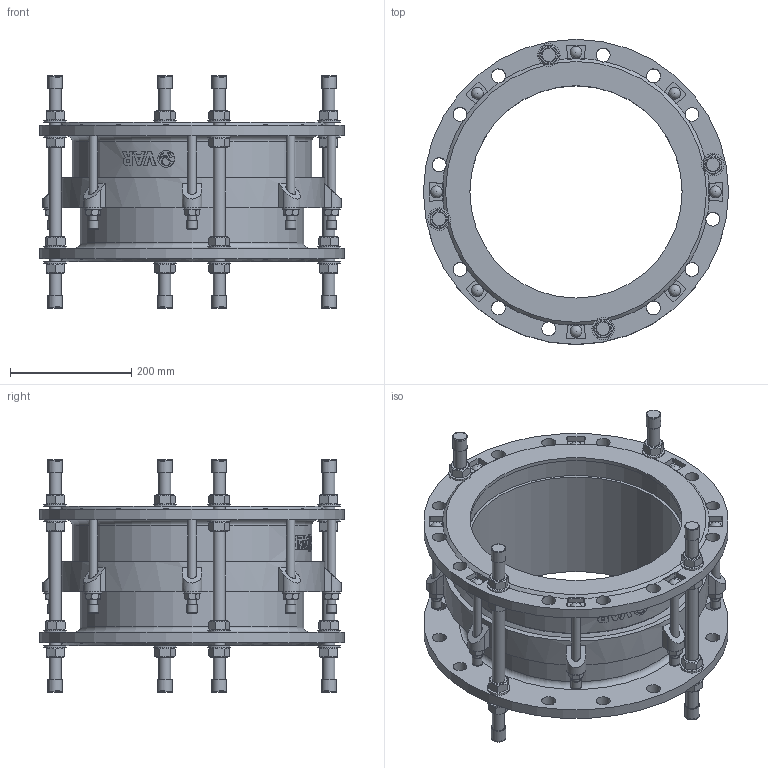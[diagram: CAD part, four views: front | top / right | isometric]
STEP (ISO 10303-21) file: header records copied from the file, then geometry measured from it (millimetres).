
FILE_DESCRIPTION(('STEP AP242'), '1');
FILE_NAME('Ìîíòàæíàÿ âñòàâêà', '', ('UNSPECIFIED'), ('UNSPECIFIED'), 'C3D Converter', 'C3D Toolkit', '');
FILE_SCHEMA(('AP242_MANAGED_MODEL_BASED_3D_ENGINEERING_MIM_LF { 1 0 10303 442 1 1 4 }'));
Length unit declared in the file: millimetre
Products named in the file (13): ШМ.М16.310
Assembly tree (80 placements, depth 2):
  (unnamed)
    (unnamed)
    (unnamed)
    (unnamed)
    (unnamed)  x16
    (unnamed)  x16
    ШМ.М16.310  x4
    (unnamed)  x8
    (unnamed)
    (unnamed)  x8
    (unnamed)  x8
    (unnamed)  x8
    (unnamed)  x8
Bounding box: 503 x 503 x 384 mm (x, y, z)
Volume: 9015107.8 mm3; surface area: 1790573.3 mm2
Topology: 80 solids, 80 shells, 915 faces, 2085 edges, 1321 vertices
Faces by surface type: plane 542, cylinder 218, cone 118, torus 18, extrusion 11, sphere 8
Full cylindrical faces by diameter (mm): 14 x24, 15 x8, 16 x8, 16.8 x8, 20 x28, 21 x16, 23 x32, 24 x8, 27.455 x1, 28 x8, 37 x16, 350 x2, 368 x2, 377 x2, 395 x1, 413 x1, 419 x1, 437 x1, 503 x2
Entity records: 21536 total; most frequent: CARTESIAN_POINT 10248, DIRECTION 1896, ORIENTED_EDGE 1710, EDGE_CURVE 855, AXIS2_PLACEMENT_3D 767, VERTEX_POINT 612, EDGE_LOOP 519, FACE_BOUND 389
